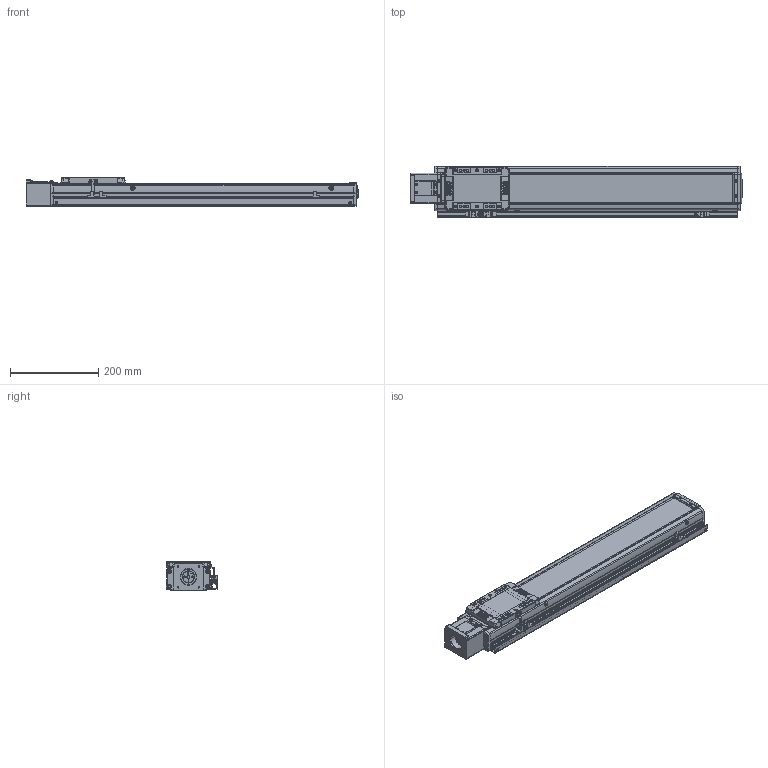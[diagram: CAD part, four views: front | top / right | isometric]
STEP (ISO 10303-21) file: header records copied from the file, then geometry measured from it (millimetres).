
FILE_DESCRIPTION(('STEP AP214'),'1');
FILE_NAME('Z:/Web/3D/SAN100/SAN100 양산용 (STEP)/SAN100ㅁㅁ-500S+3SR.stp','2013-04-26T01:54:59',(' '),(' '),'Spatial InterOp 3D',' ',' ');
FILE_SCHEMA(('automotive_design'));
Length unit declared in the file: millimetre
Products named in the file (58): EE-SX674; SBK-SX674-352; 스크루 : Round - M3.0 x 6.0; M3.0 x 6.0; SRL-16x17-380L; SGD-SAN100; MTHZ-SAN100-S56A; SDA26C-8-6.35; SSFX-SAN65; CPLCV-SAN65; 스크루 : Round - M4.0 x 10.0; FRCV-SAN100; SUS COVER; SFX-SAN100; RRCV-SAN100; FRBL-SAN100; SLBL-SAN100; SLCV-SAN100; 스크루 : Countersunk - M3.0 x 6.0; BASE; 스크루 : Round - M5.0 x 6.0
Bounding box: 752.5 x 116 x 66 mm (x, y, z)
Volume: 2178198.2 mm3; surface area: 612592.4 mm2
Topology: 58 solids, 59 shells, 2925 faces, 7690 edges, 4993 vertices
Faces by surface type: plane 1496, cylinder 1047, cone 245, sphere 72, torus 45, bspline 20
Entity records: 116916 total; most frequent: CARTESIAN_POINT 18124, DIRECTION 16234, ORIENTED_EDGE 15200, EDGE_CURVE 7600, AXIS2_PLACEMENT_3D 5858, VERTEX_POINT 4993, LINE 4518, VECTOR 4518
